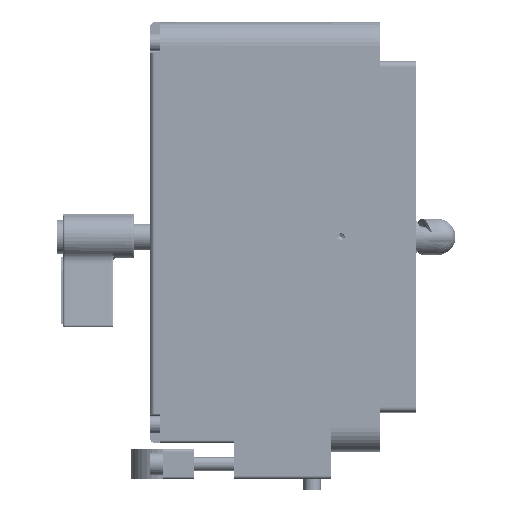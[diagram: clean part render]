
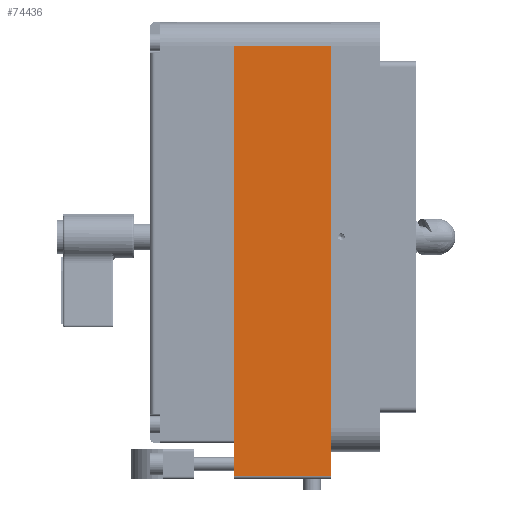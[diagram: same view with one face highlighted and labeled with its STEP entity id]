
A CAD part, top view. The second image highlights one B-rep face of the part: STEP entity #74436.
In plain terms, the highlighted planar face has unit normal (0, 0, 1).
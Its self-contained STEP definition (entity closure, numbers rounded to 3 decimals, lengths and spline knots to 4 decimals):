
#6791=FACE_OUTER_BOUND($,#14144,.T.);
#14144=EDGE_LOOP($,(#61556,#61557,#61558,#61559));
#21768=LINE($,#125865,#27894);
#21775=LINE($,#125896,#27901);
#21789=LINE($,#125944,#27915);
#21790=LINE($,#125947,#27916);
#27894=VECTOR($,#93100,1.);
#27901=VECTOR($,#93127,4.435);
#27915=VECTOR($,#93173,1.);
#27916=VECTOR($,#93178,4.435);
#34601=VERTEX_POINT($,#125858);
#34604=VERTEX_POINT($,#125863);
#34618=VERTEX_POINT($,#125895);
#34636=VERTEX_POINT($,#125943);
#43732=EDGE_CURVE($,#34604,#34601,#21768,.T.);
#43747=EDGE_CURVE($,#34618,#34601,#21775,.T.);
#43771=EDGE_CURVE($,#34618,#34636,#21789,.T.);
#43773=EDGE_CURVE($,#34636,#34604,#21790,.T.);
#61556=ORIENTED_EDGE($,*,*,#43732,.F.);
#61557=ORIENTED_EDGE($,*,*,#43773,.F.);
#61558=ORIENTED_EDGE($,*,*,#43771,.F.);
#61559=ORIENTED_EDGE($,*,*,#43747,.T.);
#66342=PLANE($,#79092);
#74436=ADVANCED_FACE($,(#6791),#66342,.T.);
#79092=AXIS2_PLACEMENT_3D($,#125946,#93176,#93177);
#93100=DIRECTION($,(-1.,0.,0.));
#93127=DIRECTION($,(0.,-1.,0.));
#93173=DIRECTION($,(1.,0.,0.));
#93176=DIRECTION('center_axis',(0.,0.,
1.));
#93177=DIRECTION('ref_axis',(1.,0.,0.));
#93178=DIRECTION($,(0.,-1.,0.));
#125858=CARTESIAN_POINT('',(-0.5354,-2.0298,0.583));
#125863=CARTESIAN_POINT('',(0.4646,-2.0298,0.583));
#125865=CARTESIAN_POINT($,(0.4646,-2.0298,0.583));
#125895=CARTESIAN_POINT('',(-0.5354,2.4052,0.583));
#125896=CARTESIAN_POINT($,(-0.5354,2.6552,0.583));
#125943=CARTESIAN_POINT('',(0.4646,2.4052,0.583));
#125944=CARTESIAN_POINT($,(0.4646,2.4052,0.583));
#125946=CARTESIAN_POINT('Origin',(0.4646,2.6552,0.583));
#125947=CARTESIAN_POINT($,(0.4646,2.6552,0.583));
